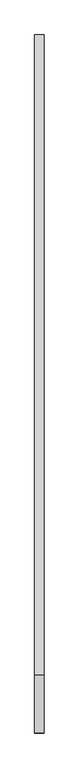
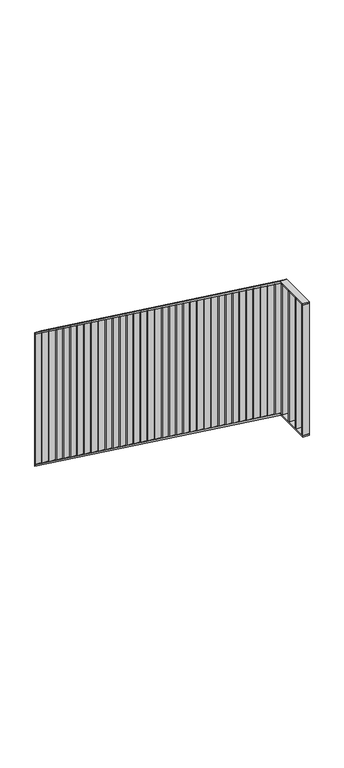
"""IFC4 building model written with IfcOpenShell, lengths in millimetres: railing geometry, Vertikale Stäbe."""

from ifc_helpers import new_model, si_unit, frame, origin, place, context, project, spatial, polyline, outline, extrude, faceted_brep, source, transform, mapped, element, save


def railing_844731f6(model_context):
    return source(origin(), model_context, "Body", "SolidModel", [
        faceted_brep([(1994.6, 4490.0, -16.6666667), (1994.6, 4490.0, -29.0673835), (1954.6, 4490.0, -29.0673835), (1954.6, 4490.0, -16.6666667), (1994.6, 1740.0, 2000.0), (1994.6, 1736.7262952, 1990.0), (1954.6, 1736.7262952, 1990.0), (1954.6, 1740.0, 2000.0), (1994.6, 1490.0, 2000.0), (1954.6, 1490.0, 2000.0), (1954.6, 1490.0, 1990.0), (1994.6, 1490.0, 1990.0)], [[[0, 1, 2, 3]], [[1, 0, 4, 5]], [[2, 1, 5, 6]], [[3, 2, 6, 7]], [[0, 3, 7, 4]], [[8, 9, 10, 11]], [[5, 4, 8, 11]], [[6, 5, 11, 10]], [[7, 6, 10, 9]], [[4, 7, 9, 8]]]),
        faceted_brep([(1994.6, 4490.0, -916.6666667), (1994.6, 4490.0, -929.0673835), (1954.6, 4490.0, -929.0673835), (1954.6, 4490.0, -916.6666667), (1994.6, 1740.0, 1100.0), (1994.6, 1736.7262952, 1090.0), (1954.6, 1736.7262952, 1090.0), (1954.6, 1740.0, 1100.0), (1994.6, 1490.0, 1100.0), (1954.6, 1490.0, 1100.0), (1954.6, 1490.0, 1090.0), (1994.6, 1490.0, 1090.0)], [[[0, 1, 2, 3]], [[1, 0, 4, 5]], [[2, 1, 5, 6]], [[3, 2, 6, 7]], [[0, 3, 7, 4]], [[8, 9, 10, 11]], [[5, 4, 8, 11]], [[6, 5, 11, 10]], [[7, 6, 10, 9]], [[4, 7, 9, 8]]]),
        extrude(outline(polyline([(1994.6, 1573.9473684), (1994.6, 1563.9473684), (1954.6, 1563.9473684), (1954.6, 1573.9473684), (1994.6, 1573.9473684)])), frame((0.0, 0.0, 1100.0), z_axis=(0.0, 0.0, 1.0), x_axis=(1.0, 0.0, 0.0)), (0.0, 0.0, 1.0), 890.0),
        extrude(outline(polyline([(1994.6, 1652.8947368), (1994.6, 1642.8947368), (1954.6, 1642.8947368), (1954.6, 1652.8947368), (1994.6, 1652.8947368)])), frame((0.0, 0.0, 1100.0), z_axis=(0.0, 0.0, 1.0), x_axis=(1.0, 0.0, 0.0)), (0.0, 0.0, 1.0), 890.0),
        extrude(outline(polyline([(1994.6, 1731.8421053), (1994.6, 1721.8421053), (1954.6, 1721.8421053), (1954.6, 1731.8421053), (1994.6, 1731.8421053)])), frame((0.0, 0.0, 1100.0), z_axis=(0.0, 0.0, 1.0), x_axis=(1.0, 0.0, 0.0)), (0.0, 0.0, 1.0), 890.0),
        extrude(outline(polyline([(1810.7894737, 1048.0877193), (1800.7894737, 1055.4210526), (1800.7894737, 1945.4210526), (1810.7894737, 1938.0877193), (1810.7894737, 1048.0877193)])), frame((1954.6, 0.0, 0.0), z_axis=(1.0, 0.0, 0.0), x_axis=(0.0, 1.0, 0.0)), (0.0, 0.0, 1.0), 40.0),
        extrude(outline(polyline([(1889.7368421, 990.1929825), (1879.7368421, 997.5263158), (1879.7368421, 1887.5263158), (1889.7368421, 1880.1929825), (1889.7368421, 990.1929825)])), frame((1954.6, 0.0, 0.0), z_axis=(1.0, 0.0, 0.0), x_axis=(0.0, 1.0, 0.0)), (0.0, 0.0, 1.0), 40.0),
        extrude(outline(polyline([(1968.6842105, 932.2982456), (1958.6842105, 939.6315789), (1958.6842105, 1829.6315789), (1968.6842105, 1822.2982456), (1968.6842105, 932.2982456)])), frame((1954.6, 0.0, 0.0), z_axis=(1.0, 0.0, 0.0), x_axis=(0.0, 1.0, 0.0)), (0.0, 0.0, 1.0), 40.0),
        extrude(outline(polyline([(2047.6315789, 874.4035088), (2037.6315789, 881.7368421), (2037.6315789, 1771.7368421), (2047.6315789, 1764.4035088), (2047.6315789, 874.4035088)])), frame((1954.6, 0.0, 0.0), z_axis=(1.0, 0.0, 0.0), x_axis=(0.0, 1.0, 0.0)), (0.0, 0.0, 1.0), 40.0),
        extrude(outline(polyline([(2126.5789474, 816.5087719), (2116.5789474, 823.8421053), (2116.5789474, 1713.8421053), (2126.5789474, 1706.5087719), (2126.5789474, 816.5087719)])), frame((1954.6, 0.0, 0.0), z_axis=(1.0, 0.0, 0.0), x_axis=(0.0, 1.0, 0.0)), (0.0, 0.0, 1.0), 40.0),
        extrude(outline(polyline([(2205.5263158, 758.6140351), (2195.5263158, 765.9473684), (2195.5263158, 1655.9473684), (2205.5263158, 1648.6140351), (2205.5263158, 758.6140351)])), frame((1954.6, 0.0, 0.0), z_axis=(1.0, 0.0, 0.0), x_axis=(0.0, 1.0, 0.0)), (0.0, 0.0, 1.0), 40.0),
        extrude(outline(polyline([(2284.4736842, 700.7192982), (2274.4736842, 708.0526316), (2274.4736842, 1598.0526316), (2284.4736842, 1590.7192982), (2284.4736842, 700.7192982)])), frame((1954.6, 0.0, 0.0), z_axis=(1.0, 0.0, 0.0), x_axis=(0.0, 1.0, 0.0)), (0.0, 0.0, 1.0), 40.0),
        extrude(outline(polyline([(2363.4210526, 642.8245614), (2353.4210526, 650.1578947), (2353.4210526, 1540.1578947), (2363.4210526, 1532.8245614), (2363.4210526, 642.8245614)])), frame((1954.6, 0.0, 0.0), z_axis=(1.0, 0.0, 0.0), x_axis=(0.0, 1.0, 0.0)), (0.0, 0.0, 1.0), 40.0),
        extrude(outline(polyline([(2442.3684211, 584.9298246), (2432.3684211, 592.2631579), (2432.3684211, 1482.2631579), (2442.3684211, 1474.9298246), (2442.3684211, 584.9298246)])), frame((1954.6, 0.0, 0.0), z_axis=(1.0, 0.0, 0.0), x_axis=(0.0, 1.0, 0.0)), (0.0, 0.0, 1.0), 40.0),
        extrude(outline(polyline([(2521.3157895, 527.0350877), (2511.3157895, 534.3684211), (2511.3157895, 1424.3684211), (2521.3157895, 1417.0350877), (2521.3157895, 527.0350877)])), frame((1954.6, 0.0, 0.0), z_axis=(1.0, 0.0, 0.0), x_axis=(0.0, 1.0, 0.0)), (0.0, 0.0, 1.0), 40.0),
        extrude(outline(polyline([(2600.2631579, 469.1403509), (2590.2631579, 476.4736842), (2590.2631579, 1366.4736842), (2600.2631579, 1359.1403509), (2600.2631579, 469.1403509)])), frame((1954.6, 0.0, 0.0), z_axis=(1.0, 0.0, 0.0), x_axis=(0.0, 1.0, 0.0)), (0.0, 0.0, 1.0), 40.0),
        extrude(outline(polyline([(2679.2105263, 411.245614), (2669.2105263, 418.5789474), (2669.2105263, 1308.5789474), (2679.2105263, 1301.245614), (2679.2105263, 411.245614)])), frame((1954.6, 0.0, 0.0), z_axis=(1.0, 0.0, 0.0), x_axis=(0.0, 1.0, 0.0)), (0.0, 0.0, 1.0), 40.0),
        extrude(outline(polyline([(2758.1578947, 353.3508772), (2748.1578947, 360.6842105), (2748.1578947, 1250.6842105), (2758.1578947, 1243.3508772), (2758.1578947, 353.3508772)])), frame((1954.6, 0.0, 0.0), z_axis=(1.0, 0.0, 0.0), x_axis=(0.0, 1.0, 0.0)), (0.0, 0.0, 1.0), 40.0),
        extrude(outline(polyline([(2837.1052632, 295.4561404), (2827.1052632, 302.7894737), (2827.1052632, 1192.7894737), (2837.1052632, 1185.4561404), (2837.1052632, 295.4561404)])), frame((1954.6, 0.0, 0.0), z_axis=(1.0, 0.0, 0.0), x_axis=(0.0, 1.0, 0.0)), (0.0, 0.0, 1.0), 40.0),
        extrude(outline(polyline([(2916.0526316, 237.5614035), (2906.0526316, 244.8947368), (2906.0526316, 1134.8947368), (2916.0526316, 1127.5614035), (2916.0526316, 237.5614035)])), frame((1954.6, 0.0, 0.0), z_axis=(1.0, 0.0, 0.0), x_axis=(0.0, 1.0, 0.0)), (0.0, 0.0, 1.0), 40.0),
        extrude(outline(polyline([(2995.0, 179.6666667), (2985.0, 187.0), (2985.0, 1077.0), (2995.0, 1069.6666667), (2995.0, 179.6666667)])), frame((1954.6, 0.0, 0.0), z_axis=(1.0, 0.0, 0.0), x_axis=(0.0, 1.0, 0.0)), (0.0, 0.0, 1.0), 40.0),
        extrude(outline(polyline([(3073.9473684, 121.7719298), (3063.9473684, 129.1052632), (3063.9473684, 1019.1052632), (3073.9473684, 1011.7719298), (3073.9473684, 121.7719298)])), frame((1954.6, 0.0, 0.0), z_axis=(1.0, 0.0, 0.0), x_axis=(0.0, 1.0, 0.0)), (0.0, 0.0, 1.0), 40.0),
        extrude(outline(polyline([(3152.8947368, 63.877193), (3142.8947368, 71.2105263), (3142.8947368, 961.2105263), (3152.8947368, 953.877193), (3152.8947368, 63.877193)])), frame((1954.6, 0.0, 0.0), z_axis=(1.0, 0.0, 0.0), x_axis=(0.0, 1.0, 0.0)), (0.0, 0.0, 1.0), 40.0),
        extrude(outline(polyline([(3231.8421053, 5.9824561), (3221.8421053, 13.3157895), (3221.8421053, 903.3157895), (3231.8421053, 895.9824561), (3231.8421053, 5.9824561)])), frame((1954.6, 0.0, 0.0), z_axis=(1.0, 0.0, 0.0), x_axis=(0.0, 1.0, 0.0)), (0.0, 0.0, 1.0), 40.0),
        extrude(outline(polyline([(3310.7894737, -51.9122807), (3300.7894737, -44.5789474), (3300.7894737, 845.4210526), (3310.7894737, 838.0877193), (3310.7894737, -51.9122807)])), frame((1954.6, 0.0, 0.0), z_axis=(1.0, 0.0, 0.0), x_axis=(0.0, 1.0, 0.0)), (0.0, 0.0, 1.0), 40.0),
        extrude(outline(polyline([(3389.7368421, -109.8070175), (3379.7368421, -102.4736842), (3379.7368421, 787.5263158), (3389.7368421, 780.1929825), (3389.7368421, -109.8070175)])), frame((1954.6, 0.0, 0.0), z_axis=(1.0, 0.0, 0.0), x_axis=(0.0, 1.0, 0.0)), (0.0, 0.0, 1.0), 40.0),
        extrude(outline(polyline([(3468.6842105, -167.7017544), (3458.6842105, -160.3684211), (3458.6842105, 729.6315789), (3468.6842105, 722.2982456), (3468.6842105, -167.7017544)])), frame((1954.6, 0.0, 0.0), z_axis=(1.0, 0.0, 0.0), x_axis=(0.0, 1.0, 0.0)), (0.0, 0.0, 1.0), 40.0),
        extrude(outline(polyline([(3547.6315789, -225.5964912), (3537.6315789, -218.2631579), (3537.6315789, 671.7368421), (3547.6315789, 664.4035088), (3547.6315789, -225.5964912)])), frame((1954.6, 0.0, 0.0), z_axis=(1.0, 0.0, 0.0), x_axis=(0.0, 1.0, 0.0)), (0.0, 0.0, 1.0), 40.0),
        extrude(outline(polyline([(3626.5789474, -283.4912281), (3616.5789474, -276.1578947), (3616.5789474, 613.8421053), (3626.5789474, 606.5087719), (3626.5789474, -283.4912281)])), frame((1954.6, 0.0, 0.0), z_axis=(1.0, 0.0, 0.0), x_axis=(0.0, 1.0, 0.0)), (0.0, 0.0, 1.0), 40.0),
        extrude(outline(polyline([(3705.5263158, -341.3859649), (3695.5263158, -334.0526316), (3695.5263158, 555.9473684), (3705.5263158, 548.6140351), (3705.5263158, -341.3859649)])), frame((1954.6, 0.0, 0.0), z_axis=(1.0, 0.0, 0.0), x_axis=(0.0, 1.0, 0.0)), (0.0, 0.0, 1.0), 40.0),
        extrude(outline(polyline([(3784.4736842, -399.2807018), (3774.4736842, -391.9473684), (3774.4736842, 498.0526316), (3784.4736842, 490.7192982), (3784.4736842, -399.2807018)])), frame((1954.6, 0.0, 0.0), z_axis=(1.0, 0.0, 0.0), x_axis=(0.0, 1.0, 0.0)), (0.0, 0.0, 1.0), 40.0),
        extrude(outline(polyline([(3863.4210526, -457.1754386), (3853.4210526, -449.8421053), (3853.4210526, 440.1578947), (3863.4210526, 432.8245614), (3863.4210526, -457.1754386)])), frame((1954.6, 0.0, 0.0), z_axis=(1.0, 0.0, 0.0), x_axis=(0.0, 1.0, 0.0)), (0.0, 0.0, 1.0), 40.0),
        extrude(outline(polyline([(3942.3684211, -515.0701754), (3932.3684211, -507.7368421), (3932.3684211, 382.2631579), (3942.3684211, 374.9298246), (3942.3684211, -515.0701754)])), frame((1954.6, 0.0, 0.0), z_axis=(1.0, 0.0, 0.0), x_axis=(0.0, 1.0, 0.0)), (0.0, 0.0, 1.0), 40.0),
        extrude(outline(polyline([(4021.3157895, -572.9649123), (4011.3157895, -565.6315789), (4011.3157895, 324.3684211), (4021.3157895, 317.0350877), (4021.3157895, -572.9649123)])), frame((1954.6, 0.0, 0.0), z_axis=(1.0, 0.0, 0.0), x_axis=(0.0, 1.0, 0.0)), (0.0, 0.0, 1.0), 40.0),
        extrude(outline(polyline([(4100.2631579, -630.8596491), (4090.2631579, -623.5263158), (4090.2631579, 266.4736842), (4100.2631579, 259.1403509), (4100.2631579, -630.8596491)])), frame((1954.6, 0.0, 0.0), z_axis=(1.0, 0.0, 0.0), x_axis=(0.0, 1.0, 0.0)), (0.0, 0.0, 1.0), 40.0),
        extrude(outline(polyline([(4179.2105263, -688.754386), (4169.2105263, -681.4210526), (4169.2105263, 208.5789474), (4179.2105263, 201.245614), (4179.2105263, -688.754386)])), frame((1954.6, 0.0, 0.0), z_axis=(1.0, 0.0, 0.0), x_axis=(0.0, 1.0, 0.0)), (0.0, 0.0, 1.0), 40.0),
        extrude(outline(polyline([(4258.1578947, -746.6491228), (4248.1578947, -739.3157895), (4248.1578947, 150.6842105), (4258.1578947, 143.3508772), (4258.1578947, -746.6491228)])), frame((1954.6, 0.0, 0.0), z_axis=(1.0, 0.0, 0.0), x_axis=(0.0, 1.0, 0.0)), (0.0, 0.0, 1.0), 40.0),
        extrude(outline(polyline([(4337.1052632, -804.5438596), (4327.1052632, -797.2105263), (4327.1052632, 92.7894737), (4337.1052632, 85.4561404), (4337.1052632, -804.5438596)])), frame((1954.6, 0.0, 0.0), z_axis=(1.0, 0.0, 0.0), x_axis=(0.0, 1.0, 0.0)), (0.0, 0.0, 1.0), 40.0),
        extrude(outline(polyline([(4416.0526316, -862.4385965), (4406.0526316, -855.1052632), (4406.0526316, 34.8947368), (4416.0526316, 27.5614035), (4416.0526316, -862.4385965)])), frame((1954.6, 0.0, 0.0), z_axis=(1.0, 0.0, 0.0), x_axis=(0.0, 1.0, 0.0)), (0.0, 0.0, 1.0), 40.0),
        extrude(outline(polyline([(1994.6, 1500.0), (1994.6, 1490.0), (1954.6, 1490.0), (1954.6, 1500.0), (1994.6, 1500.0)])), frame((0.0, 0.0, 1100.0), z_axis=(0.0, 0.0, 1.0), x_axis=(1.0, 0.0, 0.0)), (0.0, 0.0, 1.0), 890.0),
        extrude(outline(polyline([(4490.0, -916.6666667), (4480.0, -909.3333333), (4480.0, -19.3333333), (4490.0, -26.6666667), (4490.0, -916.6666667)])), frame((1954.6, 0.0, 0.0), z_axis=(1.0, 0.0, 0.0), x_axis=(0.0, 1.0, 0.0)), (0.0, 0.0, 1.0), 40.0),
    ])


if __name__ == "__main__":
    model = new_model("IFC4")
    model_context = context("Model", 3, world=origin())
    ifc_project = project(units=[si_unit("LENGTHUNIT", "METRE", prefix="MILLI")], contexts=[model_context])
    site = spatial("IfcSite", under=ifc_project)
    building = spatial("IfcBuilding", under=site)
    placement = place(None, origin())
    railing_shape = railing_844731f6(model_context)
    element("IfcRailing", 1, ObjectType="Vertikale Stäbe", at=placement, inside=building, context=model_context, shape_type="MappedRepresentation", body=[
        mapped(railing_shape, transform((0.0, 0.0, 0.0), x_axis=(1.0, 0.0, 0.0), y_axis=(0.0, 1.0, 0.0), z_axis=(0.0, 0.0, 1.0))),
    ])
    save(model, "model.ifc")
